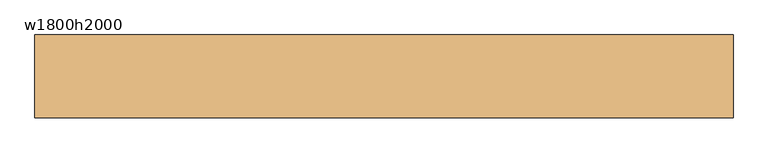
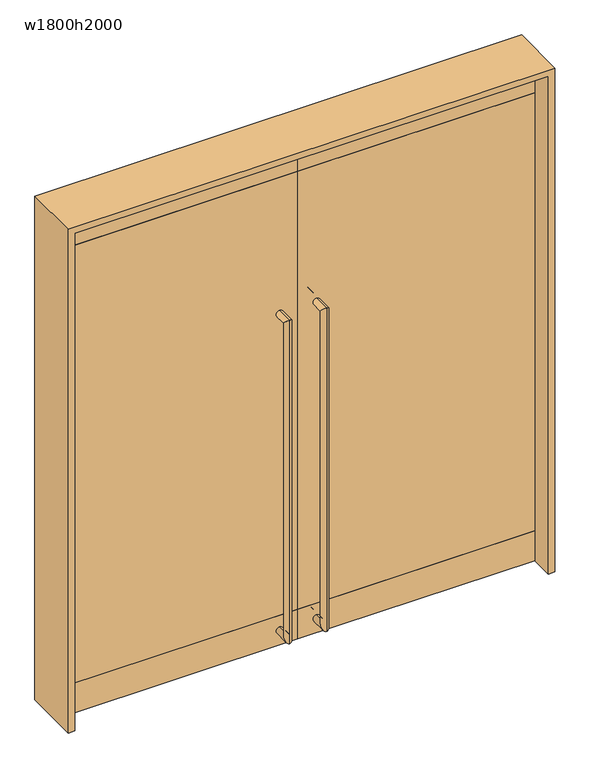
"""IFC4 building model written with IfcOpenShell, lengths in millimetres: door geometry, 自由扉 : w1800h2000."""

from ifc_helpers import new_model, si_unit, frame, origin, origin_with_axes, place, context, project, spatial, polyline, circle_curve, ellipse_curve, outline, extrude, source, transform, mapped, element, save
from ifc_brep_helpers import plane_surface, cylinder_surface, advanced_brep


def w1800h2000_ad426c29(model_context):
    return source(origin(), model_context, "Body", "SolidModel", [
        extrude(outline(polyline([(900.0, 20.0), (900.0, -20.0), (0.0, -20.0), (0.0, 20.0), (900.0, 20.0)])), frame((0.0, 0.0, 120.0), z_axis=(0.0, 0.0, 1.0), x_axis=(1.0, 0.0, 0.0)), (0.0, 0.0, 1.0), 1760.0),
        extrude(outline(polyline([(900.0, -20.0), (0.0, -20.0), (0.0, 20.0), (900.0, 20.0), (900.0, -20.0)])), frame((0.0, 0.0, 1880.0), z_axis=(0.0, 0.0, 1.0), x_axis=(1.0, 0.0, 0.0)), (0.0, 0.0, 1.0), 120.0),
        extrude(outline(polyline([(900.0, -20.0), (0.0, -20.0), (0.0, 20.0), (900.0, 20.0), (900.0, -20.0)])), origin_with_axes(), (0.0, 0.0, 1.0), 120.0),
        extrude(outline(polyline([(0.0, 20.0), (0.0, -20.0), (-900.0, -20.0), (-900.0, 20.0), (0.0, 20.0)])), frame((0.0, 0.0, 120.0), z_axis=(0.0, 0.0, 1.0), x_axis=(1.0, 0.0, 0.0)), (0.0, 0.0, 1.0), 1760.0),
        extrude(outline(polyline([(0.0, -20.0), (-900.0, -20.0), (-900.0, 20.0), (0.0, 20.0), (0.0, -20.0)])), frame((0.0, 0.0, 1880.0), z_axis=(0.0, 0.0, 1.0), x_axis=(1.0, 0.0, 0.0)), (0.0, 0.0, 1.0), 120.0),
        extrude(outline(polyline([(0.0, -20.0), (-900.0, -20.0), (-900.0, 20.0), (0.0, 20.0), (0.0, -20.0)])), origin_with_axes(), (0.0, 0.0, 1.0), 120.0),
        advanced_brep(
        [(70.0, 20.0, 46.5), (70.0, 20.0, 73.5), (70.0, 60.0, 73.5), (70.0, 87.0, 46.5), (70.0, 60.0, 1319.0), (70.0, 87.0, 1346.0), (70.0, 20.0, 1346.0), (70.0, 20.0, 1319.0)],
        [
            (0, 1, circle_curve(frame((70.0, 20.0, 60.0), z_axis=(0.0, -1.0, 0.0), x_axis=(0.0, 0.0, 1.0)), 13.5)),
            (1, 0, circle_curve(frame((70.0, 20.0, 60.0), z_axis=(0.0, -1.0, 0.0), x_axis=(0.0, 0.0, 1.0)), 13.5)),
            (1, 2),
            (2, 3, ellipse_curve(frame((70.0, 73.5, 60.0), z_axis=(0.0, -0.7071067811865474, -0.7071067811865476), x_axis=(0.0, -0.7071067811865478, 0.7071067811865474)), 19.0918831, 13.5)),
            (3, 0),
            (3, 2, ellipse_curve(frame((70.0, 73.5, 60.0), z_axis=(0.0, -0.7071067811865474, -0.7071067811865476), x_axis=(0.0, -0.7071067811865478, 0.7071067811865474)), 19.0918831, 13.5)),
            (2, 4),
            (4, 5, ellipse_curve(frame((70.0, 73.5, 1332.5), z_axis=(0.0, 0.7071067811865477, -0.7071067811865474), x_axis=(0.0, -0.7071067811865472, -0.7071067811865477)), 19.0918831, 13.5)),
            (5, 3),
            (5, 4, ellipse_curve(frame((70.0, 73.5, 1332.5), z_axis=(0.0, 0.7071067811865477, -0.7071067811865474), x_axis=(0.0, -0.7071067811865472, -0.7071067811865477)), 19.0918831, 13.5)),
            (6, 7, circle_curve(frame((70.0, 20.0, 1332.5), z_axis=(0.0, -1.0, 0.0), x_axis=(0.0, 0.0, -1.0)), 13.5)),
            (7, 6, circle_curve(frame((70.0, 20.0, 1332.5), z_axis=(0.0, -1.0, 0.0), x_axis=(0.0, 0.0, -1.0)), 13.5)),
            (4, 7),
            (6, 5),
        ],
        [
            plane_surface(frame((83.5, 20.0, 60.0), z_axis=(0.0, -1.0, 0.0), x_axis=(0.0, 0.0, 1.0))),
            cylinder_surface(frame((70.0, 20.0, 60.0), z_axis=(0.0, -1.0, 0.0), x_axis=(0.0, 0.0, 1.0)), 13.5),
            cylinder_surface(frame((70.0, 73.5, 60.0), z_axis=(0.0, 0.0, -1.0), x_axis=(0.0, -1.0, 0.0)), 13.5),
            plane_surface(frame((83.5, 20.0, 1332.5), z_axis=(0.0, -1.0, 0.0), x_axis=(0.0, 0.0, -1.0))),
            cylinder_surface(frame((70.0, 73.5, 1332.5), z_axis=(0.0, 1.0, 0.0), x_axis=(0.0, 0.0, -1.0)), 13.5),
        ],
        [
            (0, [[1, 2]]),
            (1, [[3, 4, 5, -2]]),
            (1, [[-5, 6, -3, -1]]),
            (2, [[7, 8, 9, -4]]),
            (2, [[-9, 10, -7, -6]]),
            (3, [[11, 12]]),
            (4, [[13, -11, 14, -8]]),
            (4, [[-14, -12, -13, -10]]),
        ],
    ),
        advanced_brep(
        [(70.0, -20.0, 73.5), (70.0, -20.0, 46.5), (70.0, -87.0, 46.5), (70.0, -60.0, 73.5), (70.0, -87.0, 1346.0), (70.0, -60.0, 1319.0), (70.0, -20.0, 1319.0), (70.0, -20.0, 1346.0)],
        [
            (0, 1, circle_curve(frame((70.0, -20.0, 60.0), z_axis=(0.0, 1.0, 0.0), x_axis=(0.0, 0.0, -1.0)), 13.5)),
            (1, 0, circle_curve(frame((70.0, -20.0, 60.0), z_axis=(0.0, 1.0, 0.0), x_axis=(0.0, 0.0, -1.0)), 13.5)),
            (1, 2),
            (2, 3, ellipse_curve(frame((70.0, -73.5, 60.0), z_axis=(0.0, 0.7071067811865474, -0.7071067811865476), x_axis=(0.0, 0.7071067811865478, 0.7071067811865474)), 19.0918831, 13.5)),
            (3, 0),
            (3, 2, ellipse_curve(frame((70.0, -73.5, 60.0), z_axis=(0.0, 0.7071067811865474, -0.7071067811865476), x_axis=(0.0, 0.7071067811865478, 0.7071067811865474)), 19.0918831, 13.5)),
            (2, 4),
            (4, 5, ellipse_curve(frame((70.0, -73.5, 1332.5), z_axis=(0.0, -0.7071067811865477, -0.7071067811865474), x_axis=(0.0, 0.7071067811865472, -0.7071067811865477)), 19.0918831, 13.5)),
            (5, 3),
            (5, 4, ellipse_curve(frame((70.0, -73.5, 1332.5), z_axis=(0.0, -0.7071067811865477, -0.7071067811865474), x_axis=(0.0, 0.7071067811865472, -0.7071067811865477)), 19.0918831, 13.5)),
            (6, 7, circle_curve(frame((70.0, -20.0, 1332.5), z_axis=(0.0, 1.0, 0.0), x_axis=(0.0, 0.0, 1.0)), 13.5)),
            (7, 6, circle_curve(frame((70.0, -20.0, 1332.5), z_axis=(0.0, 1.0, 0.0), x_axis=(0.0, 0.0, 1.0)), 13.5)),
            (4, 7),
            (6, 5),
        ],
        [
            plane_surface(frame((83.5, -20.0, 60.0), z_axis=(0.0, 1.0, 0.0), x_axis=(0.0, 0.0, -1.0))),
            cylinder_surface(frame((70.0, -20.0, 60.0), z_axis=(0.0, 1.0, 0.0), x_axis=(0.0, 0.0, -1.0)), 13.5),
            cylinder_surface(frame((70.0, -73.5, 60.0), z_axis=(0.0, 0.0, -1.0), x_axis=(0.0, -1.0, 0.0)), 13.5),
            plane_surface(frame((83.5, -20.0, 1332.5), z_axis=(0.0, 1.0, 0.0), x_axis=(0.0, 0.0, 1.0))),
            cylinder_surface(frame((70.0, -73.5, 1332.5), z_axis=(0.0, -1.0, 0.0), x_axis=(0.0, 0.0, 1.0)), 13.5),
        ],
        [
            (0, [[1, 2]]),
            (1, [[3, 4, 5, -2]]),
            (1, [[-5, 6, -3, -1]]),
            (2, [[7, 8, 9, -4]]),
            (2, [[-9, 10, -7, -6]]),
            (3, [[11, 12]]),
            (4, [[13, -11, 14, -8]]),
            (4, [[-14, -12, -13, -10]]),
        ],
    ),
        advanced_brep(
        [(-70.0, 20.0, 46.5), (-70.0, 20.0, 73.5), (-70.0, 87.0, 46.5), (-70.0, 60.0, 73.5), (-70.0, 87.0, 1346.0), (-70.0, 60.0, 1319.0), (-70.0, 20.0, 1346.0), (-70.0, 20.0, 1319.0)],
        [
            (0, 1, circle_curve(frame((-70.0, 20.0, 60.0), z_axis=(0.0, -1.0, 0.0), x_axis=(0.0, 0.0, 1.0)), 13.5)),
            (1, 0, circle_curve(frame((-70.0, 20.0, 60.0), z_axis=(0.0, -1.0, 0.0), x_axis=(0.0, 0.0, 1.0)), 13.5)),
            (0, 2),
            (2, 3, ellipse_curve(frame((-70.0, 73.5, 60.0), z_axis=(0.0, -0.7071067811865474, -0.7071067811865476), x_axis=(0.0, -0.7071067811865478, 0.7071067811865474)), 19.0918831, 13.5)),
            (3, 1),
            (3, 2, ellipse_curve(frame((-70.0, 73.5, 60.0), z_axis=(0.0, -0.7071067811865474, -0.7071067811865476), x_axis=(0.0, -0.7071067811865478, 0.7071067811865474)), 19.0918831, 13.5)),
            (2, 4),
            (4, 5, ellipse_curve(frame((-70.0, 73.5, 1332.5), z_axis=(0.0, 0.7071067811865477, -0.7071067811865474), x_axis=(0.0, -0.7071067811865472, -0.7071067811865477)), 19.0918831, 13.5)),
            (5, 3),
            (5, 4, ellipse_curve(frame((-70.0, 73.5, 1332.5), z_axis=(0.0, 0.7071067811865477, -0.7071067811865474), x_axis=(0.0, -0.7071067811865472, -0.7071067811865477)), 19.0918831, 13.5)),
            (6, 7, circle_curve(frame((-70.0, 20.0, 1332.5), z_axis=(0.0, -1.0, 0.0), x_axis=(0.0, 0.0, -1.0)), 13.5)),
            (7, 6, circle_curve(frame((-70.0, 20.0, 1332.5), z_axis=(0.0, -1.0, 0.0), x_axis=(0.0, 0.0, -1.0)), 13.5)),
            (4, 6),
            (7, 5),
        ],
        [
            plane_surface(frame((-83.5, 20.0, 60.0), z_axis=(0.0, -1.0, 0.0), x_axis=(0.0, 0.0, 1.0))),
            cylinder_surface(frame((-70.0, 20.0, 60.0), z_axis=(0.0, -1.0, 0.0), x_axis=(0.0, 0.0, 1.0)), 13.5),
            cylinder_surface(frame((-70.0, 73.5, 60.0), z_axis=(0.0, 0.0, -1.0), x_axis=(0.0, -1.0, 0.0)), 13.5),
            plane_surface(frame((-83.5, 20.0, 1332.5), z_axis=(0.0, -1.0, 0.0), x_axis=(0.0, 0.0, -1.0))),
            cylinder_surface(frame((-70.0, 73.5, 1332.5), z_axis=(0.0, 1.0, 0.0), x_axis=(0.0, 0.0, -1.0)), 13.5),
        ],
        [
            (0, [[1, 2]]),
            (1, [[-1, 3, 4, 5]]),
            (1, [[-2, -5, 6, -3]]),
            (2, [[-4, 7, 8, 9]]),
            (2, [[-6, -9, 10, -7]]),
            (3, [[11, 12]]),
            (4, [[-8, 13, -12, 14]]),
            (4, [[-10, -14, -11, -13]]),
        ],
    ),
        advanced_brep(
        [(-70.0, -20.0, 73.5), (-70.0, -20.0, 46.5), (-70.0, -60.0, 73.5), (-70.0, -87.0, 46.5), (-70.0, -60.0, 1319.0), (-70.0, -87.0, 1346.0), (-70.0, -20.0, 1319.0), (-70.0, -20.0, 1346.0)],
        [
            (0, 1, circle_curve(frame((-70.0, -20.0, 60.0), z_axis=(0.0, 1.0, 0.0), x_axis=(0.0, 0.0, -1.0)), 13.5)),
            (1, 0, circle_curve(frame((-70.0, -20.0, 60.0), z_axis=(0.0, 1.0, 0.0), x_axis=(0.0, 0.0, -1.0)), 13.5)),
            (0, 2),
            (2, 3, ellipse_curve(frame((-70.0, -73.5, 60.0), z_axis=(0.0, 0.7071067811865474, -0.7071067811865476), x_axis=(0.0, 0.7071067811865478, 0.7071067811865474)), 19.0918831, 13.5)),
            (3, 1),
            (3, 2, ellipse_curve(frame((-70.0, -73.5, 60.0), z_axis=(0.0, 0.7071067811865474, -0.7071067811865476), x_axis=(0.0, 0.7071067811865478, 0.7071067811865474)), 19.0918831, 13.5)),
            (2, 4),
            (4, 5, ellipse_curve(frame((-70.0, -73.5, 1332.5), z_axis=(0.0, -0.7071067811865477, -0.7071067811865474), x_axis=(0.0, 0.7071067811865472, -0.7071067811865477)), 19.0918831, 13.5)),
            (5, 3),
            (5, 4, ellipse_curve(frame((-70.0, -73.5, 1332.5), z_axis=(0.0, -0.7071067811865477, -0.7071067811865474), x_axis=(0.0, 0.7071067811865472, -0.7071067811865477)), 19.0918831, 13.5)),
            (6, 7, circle_curve(frame((-70.0, -20.0, 1332.5), z_axis=(0.0, 1.0, 0.0), x_axis=(0.0, 0.0, 1.0)), 13.5)),
            (7, 6, circle_curve(frame((-70.0, -20.0, 1332.5), z_axis=(0.0, 1.0, 0.0), x_axis=(0.0, 0.0, 1.0)), 13.5)),
            (4, 6),
            (7, 5),
        ],
        [
            plane_surface(frame((-83.5, -20.0, 60.0), z_axis=(0.0, 1.0, 0.0), x_axis=(0.0, 0.0, -1.0))),
            cylinder_surface(frame((-70.0, -20.0, 60.0), z_axis=(0.0, 1.0, 0.0), x_axis=(0.0, 0.0, -1.0)), 13.5),
            cylinder_surface(frame((-70.0, -73.5, 60.0), z_axis=(0.0, 0.0, -1.0), x_axis=(0.0, -1.0, 0.0)), 13.5),
            plane_surface(frame((-83.5, -20.0, 1332.5), z_axis=(0.0, 1.0, 0.0), x_axis=(0.0, 0.0, 1.0))),
            cylinder_surface(frame((-70.0, -73.5, 1332.5), z_axis=(0.0, -1.0, 0.0), x_axis=(0.0, 0.0, 1.0)), 13.5),
        ],
        [
            (0, [[1, 2]]),
            (1, [[-1, 3, 4, 5]]),
            (1, [[-2, -5, 6, -3]]),
            (2, [[-4, 7, 8, 9]]),
            (2, [[-6, -9, 10, -7]]),
            (3, [[11, 12]]),
            (4, [[-8, 13, -12, 14]]),
            (4, [[-10, -14, -11, -13]]),
        ],
    ),
        extrude(outline(polyline([(0.0, -925.0), (0.0, -900.0), (2000.0, -900.0), (2000.0, 900.0), (0.0, 900.0), (0.0, 925.0), (2025.0, 925.0), (2025.0, -925.0), (0.0, -925.0)])), frame((0.0, -110.0, 0.0), z_axis=(0.0, 1.0, 0.0), x_axis=(0.0, 0.0, 1.0)), (0.0, 0.0, 1.0), 220.0),
    ])


if __name__ == "__main__":
    model = new_model("IFC4")
    model_context = context("Model", 3, world=origin())
    ifc_project = project(units=[si_unit("LENGTHUNIT", "METRE", prefix="MILLI")], contexts=[model_context])
    site = spatial("IfcSite", under=ifc_project)
    building = spatial("IfcBuilding", under=site)
    placement = place(None, origin())
    w1800h2000_shape = w1800h2000_ad426c29(model_context)
    element("IfcDoor", 1, ObjectType="自由扉 : w1800h2000", at=placement, inside=building, context=model_context, shape_type="MappedRepresentation", body=[
        mapped(w1800h2000_shape, transform((0.0, 0.0, 0.0), x_axis=(1.0, 0.0, 0.0), y_axis=(0.0, 1.0, 0.0), z_axis=(0.0, 0.0, 1.0))),
    ])
    save(model, "model.ifc")
